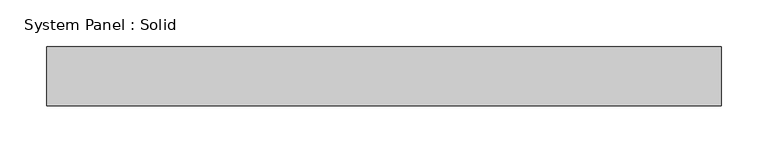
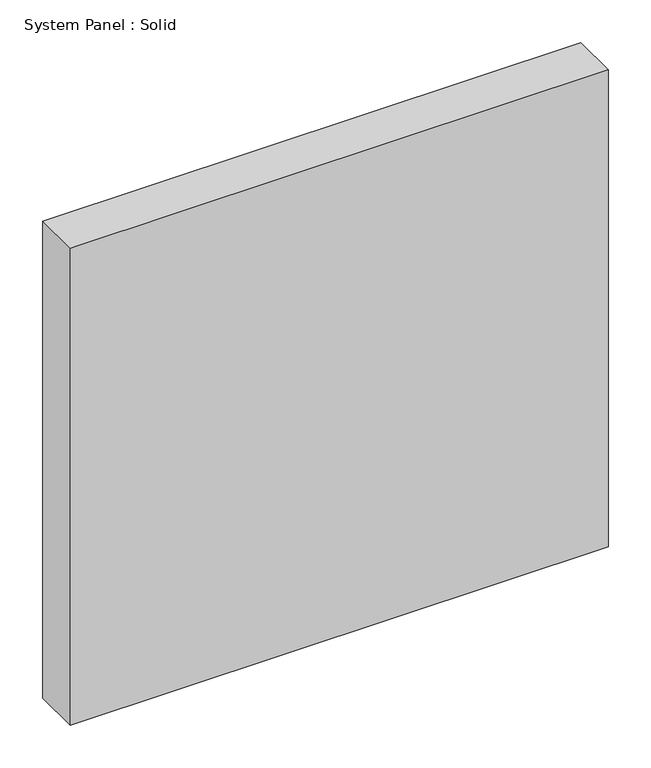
"""IFC4 building model written with IfcOpenShell, lengths in millimetres: plate geometry, System Panel : Solid."""

from ifc_helpers import new_model, si_unit, origin, origin_with_axes, place, context, project, spatial, polyline, outline, extrude, source, transform, mapped, element, save


def system_panel_solid_fb0cd2a2(model_context):
    return source(origin(), model_context, "Body", "SweptSolid", [
        extrude(outline(polyline([(361.95, -19.05), (-361.95, -19.05), (-361.95, 44.45), (361.95, 44.45), (361.95, -19.05)])), origin_with_axes(), (0.0, 0.0, 1.0), 678.75),
    ])


if __name__ == "__main__":
    model = new_model("IFC4")
    model_context = context("Model", 3, world=origin())
    ifc_project = project(units=[si_unit("LENGTHUNIT", "METRE", prefix="MILLI")], contexts=[model_context])
    site = spatial("IfcSite", under=ifc_project)
    building = spatial("IfcBuilding", under=site)
    placement = place(None, origin())
    system_panel_solid_shape = system_panel_solid_fb0cd2a2(model_context)
    element("IfcPlate", 1, ObjectType="System Panel : Solid", at=placement, inside=building, context=model_context, shape_type="MappedRepresentation", body=[
        mapped(system_panel_solid_shape, transform((0.0, 0.0, 0.0), x_axis=(1.0, 0.0, 0.0), y_axis=(0.0, 1.0, 0.0), z_axis=(0.0, 0.0, 1.0))),
    ])
    save(model, "model.ifc")
